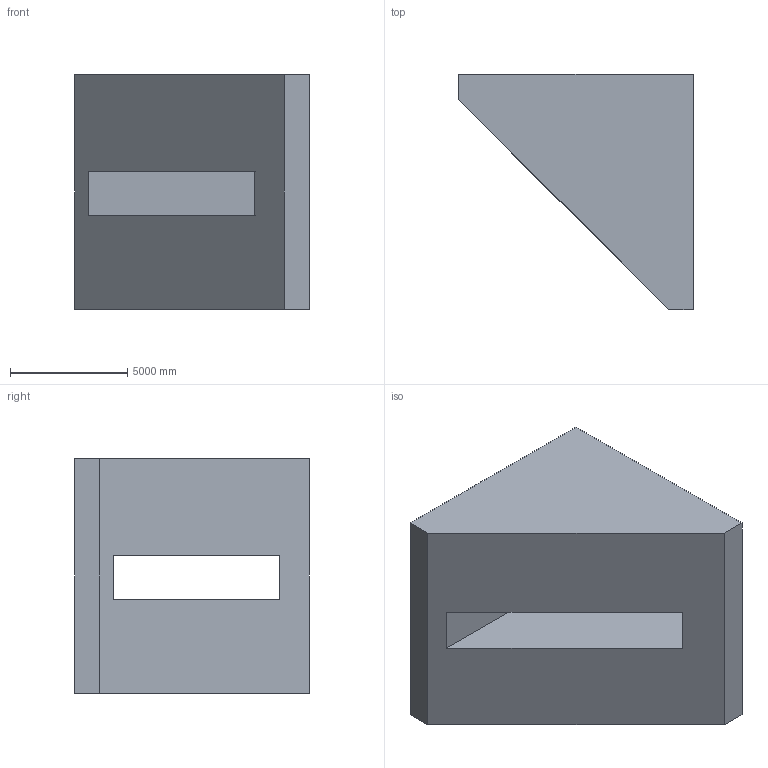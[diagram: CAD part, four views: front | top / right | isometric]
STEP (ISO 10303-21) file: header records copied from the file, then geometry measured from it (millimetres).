
FILE_DESCRIPTION (( 'STEP AP203' ), '1' );
FILE_NAME ('1024.STEP', '2022-08-18T12:27:51', ( 'user' ), ( '' ), 'SwSTEP 2.0', 'SolidWorks 2021', '' );
FILE_SCHEMA (( 'CONFIG_CONTROL_DESIGN' ));
Length unit declared in the file: centimetre
Products named in the file (1): 1024
Bounding box: 10000 x 10000 x 10000 mm (x, y, z)
Volume: 522330500962.1 mm3; surface area: 541053672.3 mm2
Topology: 1 solids, 1 shells, 11 faces, 27 edges, 18 vertices
Faces by surface type: plane 11
Entity records: 402 total; most frequent: CARTESIAN_POINT 57, ORIENTED_EDGE 54, DIRECTION 51, VECTOR 27, EDGE_CURVE 27, LINE 27, VERTEX_POINT 18, EDGE_LOOP 13
